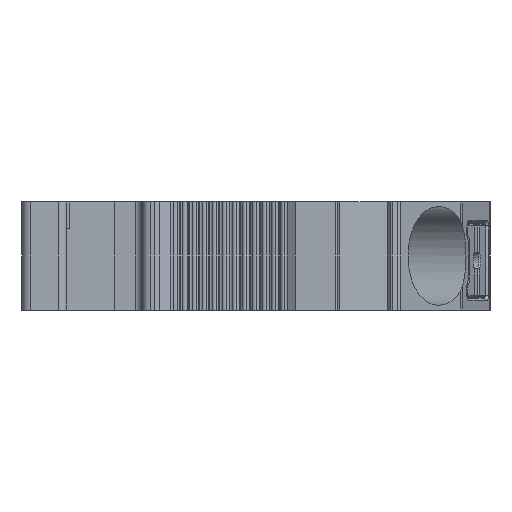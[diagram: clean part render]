
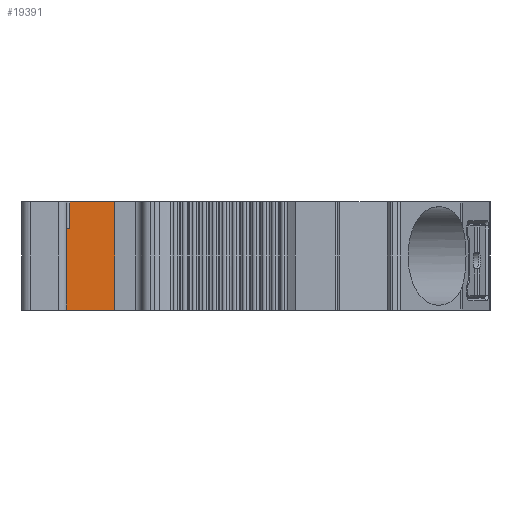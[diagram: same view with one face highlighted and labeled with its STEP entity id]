
A CAD part, left-side view. The second image highlights one B-rep face of the part: STEP entity #19391.
In plain terms, the highlighted planar face has unit normal (-1, 0, 0).
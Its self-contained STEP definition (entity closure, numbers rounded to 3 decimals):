
#380=DIRECTION('',(0.,1.,0.));
#381=VECTOR('',#380,5.1);
#382=CARTESIAN_POINT('',(3.75,43.225,0.));
#383=LINE('',#382,#381);
#1229=DIRECTION('',(0.,1.,0.));
#1230=VECTOR('',#1229,1.975);
#1231=CARTESIAN_POINT('',(3.75,50.2,0.));
#1232=LINE('',#1231,#1230);
#2355=DIRECTION('',(0.,0.,-1.));
#2356=VECTOR('',#2355,3.);
#2357=CARTESIAN_POINT('',(3.75,48.325,0.));
#2358=LINE('',#2357,#2356);
#2363=DIRECTION('',(0.,1.,0.));
#2364=VECTOR('',#2363,1.875);
#2365=CARTESIAN_POINT('',(3.75,50.3,-9.15));
#2366=LINE('',#2365,#2364);
#2367=DIRECTION('',(0.,0.,-1.));
#2368=VECTOR('',#2367,3.);
#2369=CARTESIAN_POINT('',(3.75,50.2,0.));
#2370=LINE('',#2369,#2368);
#2371=DIRECTION('',(0.,-1.,0.));
#2372=VECTOR('',#2371,1.875);
#2373=CARTESIAN_POINT('',(3.75,50.2,-3.));
#2374=LINE('',#2373,#2372);
#2375=DIRECTION('',(0.,0.,1.));
#2376=VECTOR('',#2375,12.15);
#2377=CARTESIAN_POINT('',(3.75,43.225,-12.15));
#2378=LINE('',#2377,#2376);
#3352=DIRECTION('',(0.,-1.,0.));
#3353=VECTOR('',#3352,7.075);
#3354=CARTESIAN_POINT('',(3.75,50.3,-12.15));
#3355=LINE('',#3354,#3353);
#9187=DIRECTION('',(0.,0.,-1.));
#9188=VECTOR('',#9187,9.15);
#9189=CARTESIAN_POINT('',(3.75,52.175,0.));
#9190=LINE('',#9189,#9188);
#9223=DIRECTION('',(0.,0.,-1.));
#9224=VECTOR('',#9223,3.);
#9225=CARTESIAN_POINT('',(3.75,50.3,-9.15));
#9226=LINE('',#9225,#9224);
#13403=CARTESIAN_POINT('',(3.75,43.225,0.));
#13404=VERTEX_POINT('',#13403);
#13405=CARTESIAN_POINT('',(3.75,48.325,0.));
#13406=VERTEX_POINT('',#13405);
#13761=CARTESIAN_POINT('',(3.75,50.2,0.));
#13762=CARTESIAN_POINT('',(3.75,52.175,0.));
#13763=VERTEX_POINT('',#13761);
#13764=VERTEX_POINT('',#13762);
#15287=CARTESIAN_POINT('',(3.75,48.325,
-3.));
#15288=VERTEX_POINT('',#15287);
#15289=CARTESIAN_POINT('',(3.75,43.225,
-12.15));
#15290=VERTEX_POINT('',#15289);
#15291=CARTESIAN_POINT('',(3.75,50.3,
-12.15));
#15292=VERTEX_POINT('',#15291);
#15293=CARTESIAN_POINT('',(3.75,50.3,
-9.15));
#15294=VERTEX_POINT('',#15293);
#15295=CARTESIAN_POINT('',(3.75,52.175,
-9.15));
#15296=VERTEX_POINT('',#15295);
#15297=CARTESIAN_POINT('',(3.75,50.2,
-3.));
#15298=VERTEX_POINT('',#15297);
#19367=CARTESIAN_POINT('',(3.75,42.969,
-12.485));
#19368=DIRECTION('',(1.,0.,0.));
#19369=DIRECTION('',(0.,1.,0.));
#19370=AXIS2_PLACEMENT_3D('',#19367,#19368,#19369);
#19371=PLANE('',#19370);
#19372=ORIENTED_EDGE('',*,*,#16492,.F.);
#19374=ORIENTED_EDGE('',*,*,#19373,.F.);
#19376=ORIENTED_EDGE('',*,*,#19375,.F.);
#19378=ORIENTED_EDGE('',*,*,#19377,.F.);
#19380=ORIENTED_EDGE('',*,*,#19379,.T.);
#19382=ORIENTED_EDGE('',*,*,#19381,.F.);
#19383=ORIENTED_EDGE('',*,*,#16865,.F.);
#19385=ORIENTED_EDGE('',*,*,#19384,.T.);
#19387=ORIENTED_EDGE('',*,*,#19386,.T.);
#19388=ORIENTED_EDGE('',*,*,#19359,.F.);
#19389=EDGE_LOOP('',(#19372,#19374,#19376,#19378,#19380,#19382,#19383,#19385,
#19387,#19388));
#19390=FACE_OUTER_BOUND('',#19389,.F.);
#19391=ADVANCED_FACE('',(#19390),#19371,.F.);
#16492=EDGE_CURVE('',#13404,#13406,#383,.T.);
#16865=EDGE_CURVE('',#13763,#13764,#1232,.T.);
#19359=EDGE_CURVE('',#13406,#15288,#2358,.T.);
#19373=EDGE_CURVE('',#15290,#13404,#2378,.T.);
#19375=EDGE_CURVE('',#15292,#15290,#3355,.T.);
#19377=EDGE_CURVE('',#15294,#15292,#9226,.T.);
#19379=EDGE_CURVE('',#15294,#15296,#2366,.T.);
#19381=EDGE_CURVE('',#13764,#15296,#9190,.T.);
#19384=EDGE_CURVE('',#13763,#15298,#2370,.T.);
#19386=EDGE_CURVE('',#15298,#15288,#2374,.T.);
